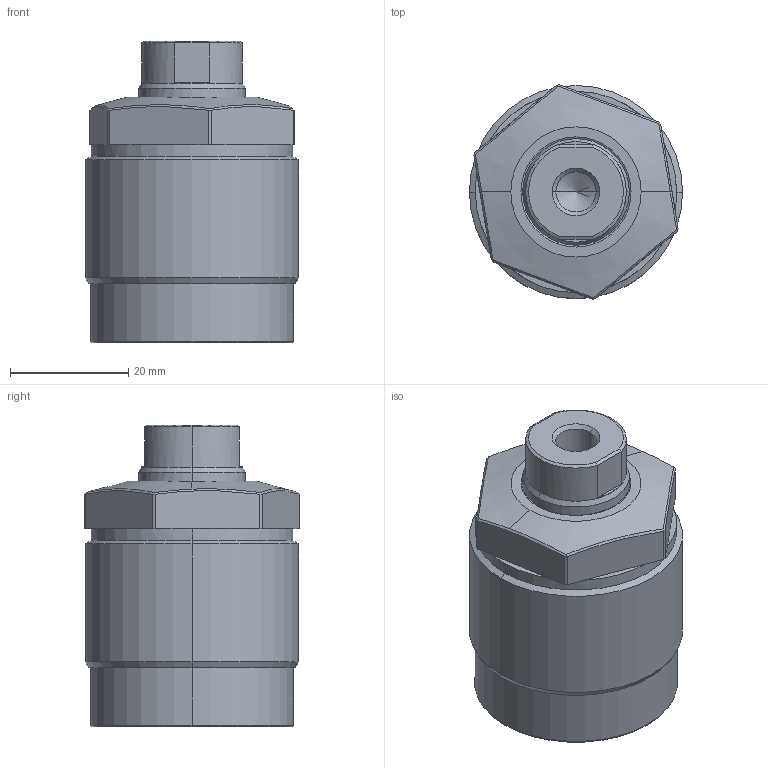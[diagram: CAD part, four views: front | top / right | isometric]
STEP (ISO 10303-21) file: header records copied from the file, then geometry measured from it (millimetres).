
FILE_DESCRIPTION (( 'STEP AP214' ), '1' );
FILE_NAME ('TO3C-M364-S.STEP', '2020-07-10T03:41:11', ( '' ), ( '' ), 'SwSTEP 2.0', 'SolidWorks 2019', '' );
FILE_SCHEMA (( 'AUTOMOTIVE_DESIGN' ));
Length unit declared in the file: millimetre
Products named in the file (3): TO3C-M364-S; TO3C-M364-S-BODY; M36-S-PLUNGER
Assembly tree (2 placements, depth 2):
  TO3C-M364-S
    TO3C-M364-S-BODY
    M36-S-PLUNGER
Bounding box: 36 x 36.23 x 51 mm (x, y, z)
Volume: 39211.6 mm3; surface area: 10437.6 mm2
Topology: 2 solids, 2 shells, 94 faces, 198 edges, 112 vertices
Faces by surface type: plane 45, cone 23, cylinder 20, bspline 6
Entity records: 3475 total; most frequent: CARTESIAN_POINT 1361, DIRECTION 425, ORIENTED_EDGE 392, EDGE_CURVE 196, AXIS2_PLACEMENT_3D 166, VERTEX_POINT 112, EDGE_LOOP 100, ADVANCED_FACE 94
